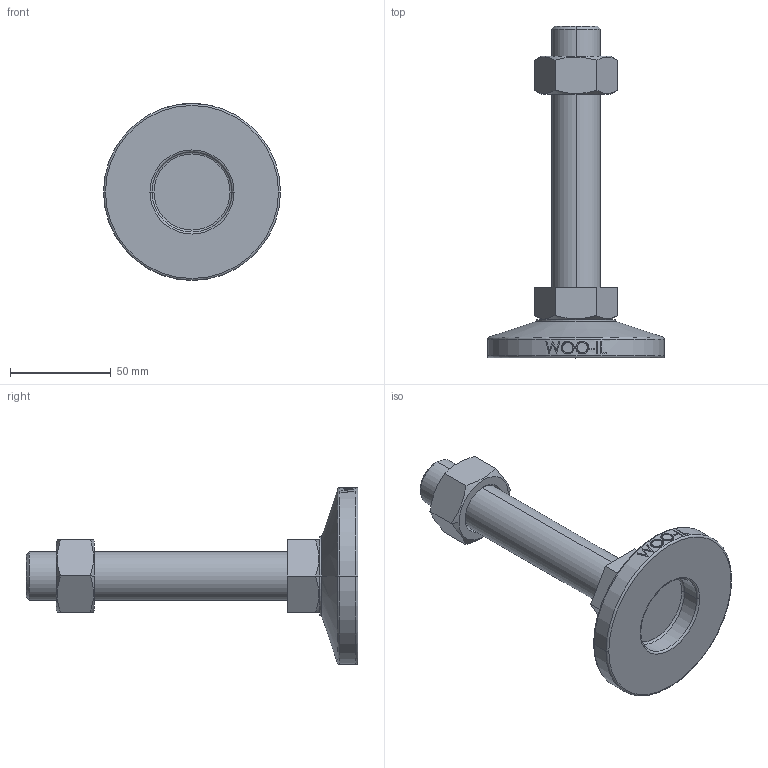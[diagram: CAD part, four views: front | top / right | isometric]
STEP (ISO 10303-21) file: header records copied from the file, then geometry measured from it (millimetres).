
FILE_DESCRIPTION (( 'STEP AP214' ), '1' );
FILE_NAME ('MFT88-M24-130.step', '2021-03-29T04:45:14', ( '' ), ( '' ), 'SwSTEP 2.0', 'SolidWorks 2019', '' );
FILE_SCHEMA (( 'AUTOMOTIVE_DESIGN' ));
Length unit declared in the file: millimetre
Products named in the file (2): MFT88-M24-130
Bounding box: 88 x 165 x 88 mm (x, y, z)
Volume: 164808.8 mm3; surface area: 35128.5 mm2
Topology: 3 solids, 3 shells, 106 faces, 243 edges, 154 vertices
Faces by surface type: plane 48, cylinder 18, bspline 16, cone 14, torus 10
Entity records: 4538 total; most frequent: CARTESIAN_POINT 2195, ORIENTED_EDGE 486, DIRECTION 439, EDGE_CURVE 243, AXIS2_PLACEMENT_3D 170, VERTEX_POINT 154, EDGE_LOOP 119, ADVANCED_FACE 106
